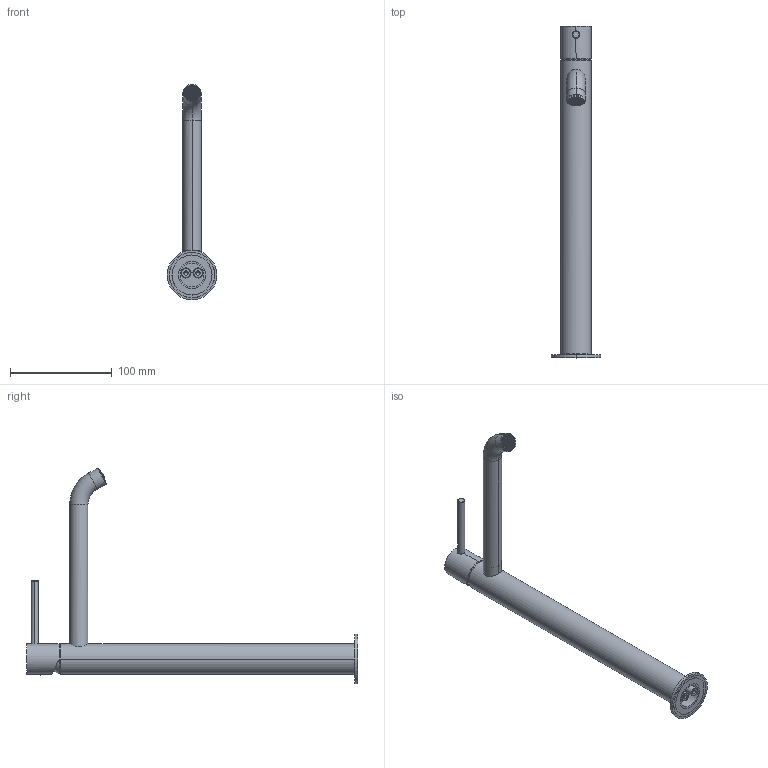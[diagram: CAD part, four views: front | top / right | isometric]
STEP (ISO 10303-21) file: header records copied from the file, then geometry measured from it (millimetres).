
FILE_DESCRIPTION((''),'2;1');
FILE_NAME('6906521_SW0001','2026-03-12T09:06:02',('volponeff'),(''),'CREO PARAMETRIC BY PTC INC, 2022014','CREO PARAMETRIC BY PTC INC, 2022014','');
FILE_SCHEMA(('CONFIG_CONTROL_DESIGN'));
Length unit declared in the file: millimetre
Products named in the file (1): 6906521_SW0001
Bounding box: 48.8 x 327 x 212.35 mm (x, y, z)
Volume: 136620.6 mm3; surface area: 113208 mm2
Topology: 4 solids, 6 shells, 3441 faces, 10170 edges, 6725 vertices
Faces by surface type: plane 2004, cylinder 575, torus 474, bspline 168, cone 95, extrusion 79, sphere 46
Entity records: 158120 total; most frequent: CARTESIAN_POINT 72174, ORIENTED_EDGE 20244, DIRECTION 14748, EDGE_CURVE 10122, VERTEX_POINT 6725, AXIS2_PLACEMENT_3D 5414, B_SPLINE_CURVE_WITH_KNOTS 4140, VECTOR 3920
